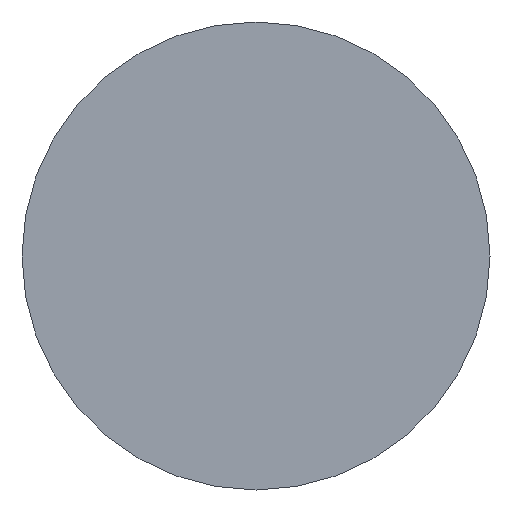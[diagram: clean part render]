
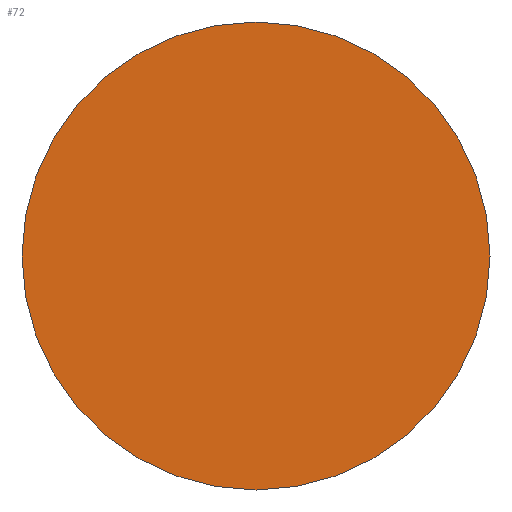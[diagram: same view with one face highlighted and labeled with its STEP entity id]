
A CAD part, front view. The second image highlights one B-rep face of the part: STEP entity #72.
In plain terms, the highlighted planar face has unit normal (0, -1, 0).
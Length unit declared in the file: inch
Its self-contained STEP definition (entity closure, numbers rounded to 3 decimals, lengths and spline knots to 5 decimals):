
#2 = EDGE_CURVE ( 'NONE', #1406, #404, #276, .T. ) ;
#72 = ADVANCED_FACE ( 'NONE', ( #1137 ), #976, .T. ) ;
#84 = AXIS2_PLACEMENT_3D ( 'NONE', #536, #844, #691 ) ;
#268 = DIRECTION ( 'NONE',  ( 0., -1., 0. ) ) ;
#276 = CIRCLE ( 'NONE', #84, 2.36 ) ;
#277 = DIRECTION ( 'NONE',  ( 0., 0., -1. ) ) ;
#404 = VERTEX_POINT ( 'NONE', #1073 ) ;
#422 = ORIENTED_EDGE ( 'NONE', *, *, #1661, .T. ) ;
#536 = CARTESIAN_POINT ( 'NONE',  ( 0., -55.26071, 0. ) ) ;
#691 = DIRECTION ( 'NONE',  ( 0., 0., -1. ) ) ;
#727 = EDGE_LOOP ( 'NONE', ( #1640, #422 ) ) ;
#801 = DIRECTION ( 'NONE',  ( 0., -1., 0. ) ) ;
#844 = DIRECTION ( 'NONE',  ( 0., -1., 0. ) ) ;
#976 = PLANE ( 'NONE',  #1168 ) ;
#995 = CARTESIAN_POINT ( 'NONE',  ( 0., -55.26071, 2.36 ) ) ;
#1073 = CARTESIAN_POINT ( 'NONE',  ( 0., -55.26071, -2.36 ) ) ;
#1105 = CARTESIAN_POINT ( 'NONE',  ( 0., -55.26071, 0. ) ) ;
#1137 = FACE_OUTER_BOUND ( 'NONE', #727, .T. ) ;
#1168 = AXIS2_PLACEMENT_3D ( 'NONE', #1105, #801, #1266 ) ;
#1266 = DIRECTION ( 'NONE',  ( 0., 0., -1. ) ) ;
#1308 = CARTESIAN_POINT ( 'NONE',  ( 0., -55.26071, 0. ) ) ;
#1406 = VERTEX_POINT ( 'NONE', #995 ) ;
#1640 = ORIENTED_EDGE ( 'NONE', *, *, #2, .T. ) ;
#1661 = EDGE_CURVE ( 'NONE', #404, #1406, #1778, .T. ) ;
#1682 = AXIS2_PLACEMENT_3D ( 'NONE', #1308, #268, #277 ) ;
#1778 = CIRCLE ( 'NONE', #1682, 2.36 ) ;
